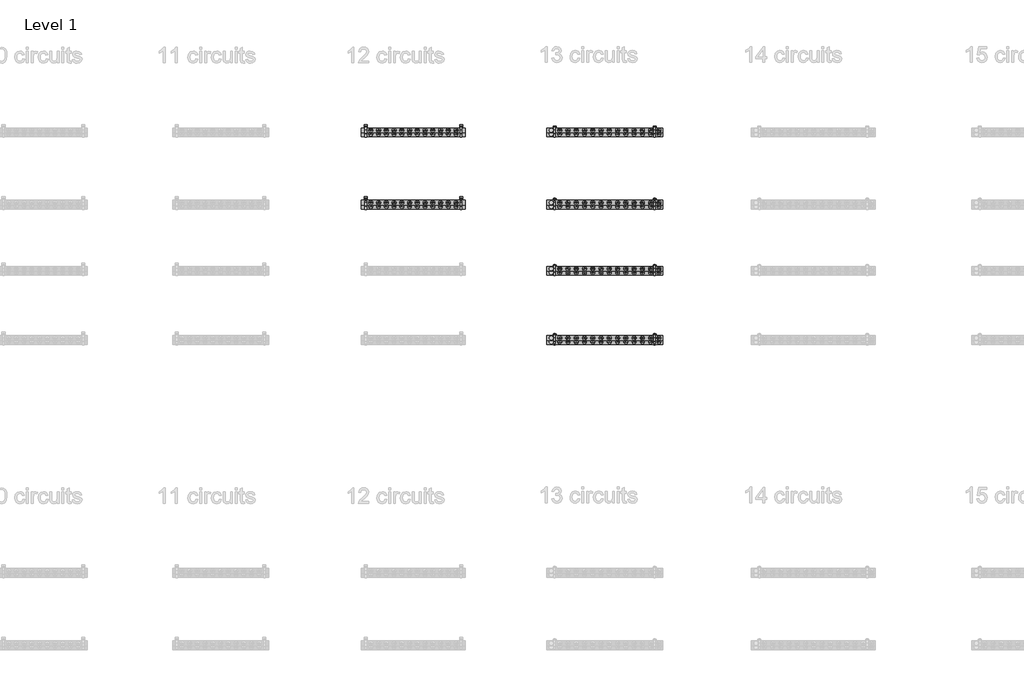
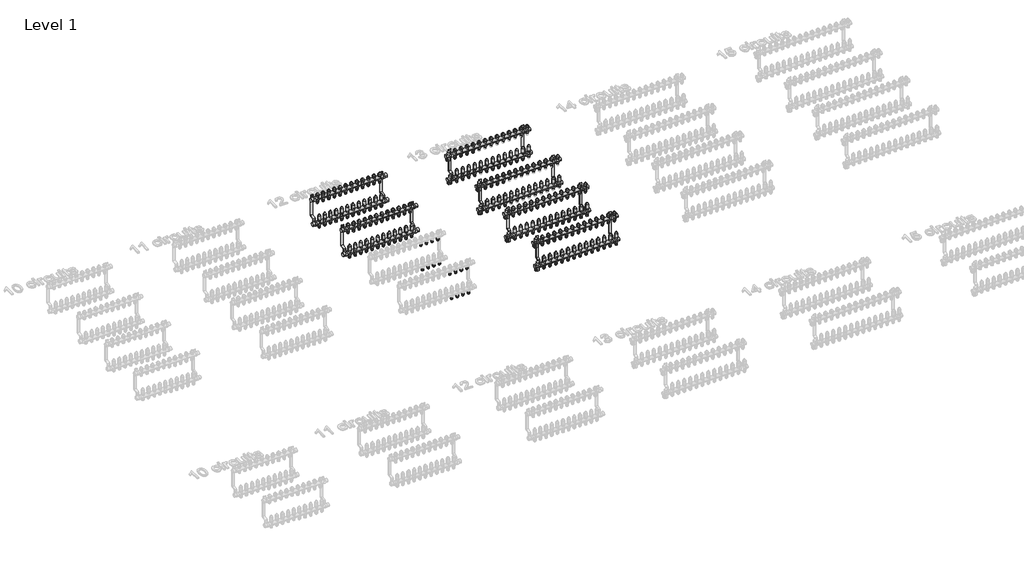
# One storey, part 12 of 23: 139 pipe fittings, 6 valves.
"""IFC4 building model written with IfcOpenShell, lengths in millimetres."""

from ifc_helpers import new_model, si_unit, origin, place, context, project, spatial, transform, mapped, element, save
from components import pipe_fitting_03c6499f, valve_28fdf4a6, valve_a7423dcf, valve_d379a65c, valve_24eee51e, valve_cb73cf64, valve_9b29a5eb, valve_b9f81a7f, valve_96d576d6

model = new_model("IFC4")

# Units and contexts
model_context = context("Model", 3, world=origin())
ifc_project = project(units=[si_unit("LENGTHUNIT", "METRE", prefix="MILLI")], contexts=[model_context])

# Site, building, storey
site = spatial("IfcSite", under=ifc_project)
building = spatial("IfcBuilding", under=site)
storey = spatial("IfcBuildingStorey", under=building, Name="Level 1", Elevation=0.0)

# Pipe fittings
placement = place(None, origin())
pipe_fitting_shape = pipe_fitting_03c6499f(model_context)
element("IfcPipeFitting", 1, ObjectType="Euroconus screwing for multilayer pipes - Manifold FT : Euroconus screwing for multilayer pipes - Manifold FT", at=placement, inside=storey, context=model_context, shape_type="MappedRepresentation", body=[
    mapped(pipe_fitting_shape, transform((12125.7069589, 1635.3040686, 62.88733), x_axis=(0.0, 0.0, -1.0), y_axis=(0.0, 1.0000000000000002, 0.0), z_axis=(1.0000000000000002, 0.0, 0.0))),
])
element("IfcPipeFitting", 2, ObjectType="Euroconus screwing for multilayer pipes - Manifold FT : Euroconus screwing for multilayer pipes - Manifold FT", at=placement, inside=storey, context=model_context, shape_type="MappedRepresentation", body=[
    mapped(pipe_fitting_shape, transform((12076.4342316, 1635.3040686, 62.88733), x_axis=(0.0, 0.0, -1.0), y_axis=(0.0, 1.0000000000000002, 0.0), z_axis=(1.0000000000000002, 0.0, 0.0))),
])
element("IfcPipeFitting", 3, ObjectType="Euroconus screwing for multilayer pipes - Manifold FT : Euroconus screwing for multilayer pipes - Manifold FT", at=placement, inside=storey, context=model_context, shape_type="MappedRepresentation", body=[
    mapped(pipe_fitting_shape, transform((12027.1615043, 1635.3040686, 62.88733), x_axis=(0.0, 0.0, -1.0), y_axis=(0.0, 1.0000000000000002, 0.0), z_axis=(1.0000000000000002, 0.0, 0.0))),
])
element("IfcPipeFitting", 4, ObjectType="Euroconus screwing for multilayer pipes - Manifold FT : Euroconus screwing for multilayer pipes - Manifold FT", at=placement, inside=storey, context=model_context, shape_type="MappedRepresentation", body=[
    mapped(pipe_fitting_shape, transform((11977.8887771, 1635.3040686, 62.88733), x_axis=(0.0, 0.0, -1.0), y_axis=(0.0, 1.0000000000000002, 0.0), z_axis=(1.0000000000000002, 0.0, 0.0))),
])
element("IfcPipeFitting", 5, ObjectType="Euroconus screwing for multilayer pipes - Manifold FT : Euroconus screwing for multilayer pipes - Manifold FT", at=placement, inside=storey, context=model_context, shape_type="MappedRepresentation", body=[
    mapped(pipe_fitting_shape, transform((11928.6160498, 1635.3040686, 62.88733), x_axis=(0.0, 0.0, -1.0), y_axis=(0.0, 1.0000000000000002, 0.0), z_axis=(1.0000000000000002, 0.0, 0.0))),
])
element("IfcPipeFitting", 6, ObjectType="Euroconus screwing for multilayer pipes - Manifold FT : Euroconus screwing for multilayer pipes - Manifold FT", at=placement, inside=storey, context=model_context, shape_type="MappedRepresentation", body=[
    mapped(pipe_fitting_shape, transform((11879.3433225, 1635.3040686, 62.88733), x_axis=(0.0, 0.0, -1.0), y_axis=(0.0, 1.0000000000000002, 0.0), z_axis=(1.0000000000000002, 0.0, 0.0))),
])
element("IfcPipeFitting", 7, ObjectType="Euroconus screwing for multilayer pipes - Manifold FT : Euroconus screwing for multilayer pipes - Manifold FT", at=placement, inside=storey, context=model_context, shape_type="MappedRepresentation", body=[
    mapped(pipe_fitting_shape, transform((11830.0705953, 1635.3040686, 62.88733), x_axis=(0.0, 0.0, -1.0), y_axis=(0.0, 1.0000000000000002, 0.0), z_axis=(1.0000000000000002, 0.0, 0.0))),
])
element("IfcPipeFitting", 8, ObjectType="Euroconus screwing for multilayer pipes - Manifold FT : Euroconus screwing for multilayer pipes - Manifold FT", at=placement, inside=storey, context=model_context, shape_type="MappedRepresentation", body=[
    mapped(pipe_fitting_shape, transform((11780.797868, 1635.3040686, 62.88733), x_axis=(0.0, 0.0, -1.0), y_axis=(0.0, 1.0000000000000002, 0.0), z_axis=(1.0000000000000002, 0.0, 0.0))),
])
element("IfcPipeFitting", 9, ObjectType="Euroconus screwing for multilayer pipes - Manifold FT : Euroconus screwing for multilayer pipes - Manifold FT", at=placement, inside=storey, context=model_context, shape_type="MappedRepresentation", body=[
    mapped(pipe_fitting_shape, transform((11731.5251407, 1635.3040686, 62.88733), x_axis=(0.0, 0.0, -1.0), y_axis=(0.0, 1.0000000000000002, 0.0), z_axis=(1.0000000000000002, 0.0, 0.0))),
])
element("IfcPipeFitting", 10, ObjectType="Euroconus screwing for multilayer pipes - Manifold FT : Euroconus screwing for multilayer pipes - Manifold FT", at=placement, inside=storey, context=model_context, shape_type="MappedRepresentation", body=[
    mapped(pipe_fitting_shape, transform((11682.2524134, 1635.3040686, 62.88733), x_axis=(0.0, 0.0, -1.0), y_axis=(0.0, 1.0000000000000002, 0.0), z_axis=(1.0000000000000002, 0.0, 0.0))),
])
element("IfcPipeFitting", 11, ObjectType="Euroconus screwing for multilayer pipes - Manifold FT : Euroconus screwing for multilayer pipes - Manifold FT", at=placement, inside=storey, context=model_context, shape_type="MappedRepresentation", body=[
    mapped(pipe_fitting_shape, transform((12174.9796862, 1635.3040686, 62.88733), x_axis=(0.0, 0.0, -1.0), y_axis=(0.0, 1.0000000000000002, 0.0), z_axis=(1.0000000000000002, 0.0, 0.0))),
])
element("IfcPipeFitting", 12, ObjectType="Euroconus screwing for multilayer pipes - Manifold FT : Euroconus screwing for multilayer pipes - Manifold FT", at=placement, inside=storey, context=model_context, shape_type="MappedRepresentation", body=[
    mapped(pipe_fitting_shape, transform((12125.7069589, 1660.3040686, 272.88733), x_axis=(0.0, 0.0, -1.0), y_axis=(0.0, 1.0000000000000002, 0.0), z_axis=(1.0000000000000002, 0.0, 0.0))),
])
element("IfcPipeFitting", 13, ObjectType="Euroconus screwing for multilayer pipes - Manifold FT : Euroconus screwing for multilayer pipes - Manifold FT", at=placement, inside=storey, context=model_context, shape_type="MappedRepresentation", body=[
    mapped(pipe_fitting_shape, transform((12076.4342316, 1660.3040686, 272.88733), x_axis=(0.0, 0.0, -1.0), y_axis=(0.0, 1.0000000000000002, 0.0), z_axis=(1.0000000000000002, 0.0, 0.0))),
])
element("IfcPipeFitting", 14, ObjectType="Euroconus screwing for multilayer pipes - Manifold FT : Euroconus screwing for multilayer pipes - Manifold FT", at=placement, inside=storey, context=model_context, shape_type="MappedRepresentation", body=[
    mapped(pipe_fitting_shape, transform((12027.1615043, 1660.3040686, 272.88733), x_axis=(0.0, 0.0, -1.0), y_axis=(0.0, 1.0000000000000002, 0.0), z_axis=(1.0000000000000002, 0.0, 0.0))),
])
element("IfcPipeFitting", 15, ObjectType="Euroconus screwing for multilayer pipes - Manifold FT : Euroconus screwing for multilayer pipes - Manifold FT", at=placement, inside=storey, context=model_context, shape_type="MappedRepresentation", body=[
    mapped(pipe_fitting_shape, transform((11977.8887771, 1660.3040686, 272.88733), x_axis=(0.0, 0.0, -1.0), y_axis=(0.0, 1.0000000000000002, 0.0), z_axis=(1.0000000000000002, 0.0, 0.0))),
])
element("IfcPipeFitting", 16, ObjectType="Euroconus screwing for multilayer pipes - Manifold FT : Euroconus screwing for multilayer pipes - Manifold FT", at=placement, inside=storey, context=model_context, shape_type="MappedRepresentation", body=[
    mapped(pipe_fitting_shape, transform((11928.6160498, 1660.3040686, 272.88733), x_axis=(0.0, 0.0, -1.0), y_axis=(0.0, 1.0000000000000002, 0.0), z_axis=(1.0000000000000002, 0.0, 0.0))),
])
element("IfcPipeFitting", 17, ObjectType="Euroconus screwing for multilayer pipes - Manifold FT : Euroconus screwing for multilayer pipes - Manifold FT", at=placement, inside=storey, context=model_context, shape_type="MappedRepresentation", body=[
    mapped(pipe_fitting_shape, transform((11879.3433225, 1660.3040686, 272.88733), x_axis=(0.0, 0.0, -1.0), y_axis=(0.0, 1.0000000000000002, 0.0), z_axis=(1.0000000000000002, 0.0, 0.0))),
])
element("IfcPipeFitting", 18, ObjectType="Euroconus screwing for multilayer pipes - Manifold FT : Euroconus screwing for multilayer pipes - Manifold FT", at=placement, inside=storey, context=model_context, shape_type="MappedRepresentation", body=[
    mapped(pipe_fitting_shape, transform((11830.0705953, 1660.3040686, 272.88733), x_axis=(0.0, 0.0, -1.0), y_axis=(0.0, 1.0000000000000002, 0.0), z_axis=(1.0000000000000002, 0.0, 0.0))),
])
element("IfcPipeFitting", 19, ObjectType="Euroconus screwing for multilayer pipes - Manifold FT : Euroconus screwing for multilayer pipes - Manifold FT", at=placement, inside=storey, context=model_context, shape_type="MappedRepresentation", body=[
    mapped(pipe_fitting_shape, transform((11780.797868, 1660.3040686, 272.88733), x_axis=(0.0, 0.0, -1.0), y_axis=(0.0, 1.0000000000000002, 0.0), z_axis=(1.0000000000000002, 0.0, 0.0))),
])
element("IfcPipeFitting", 20, ObjectType="Euroconus screwing for multilayer pipes - Manifold FT : Euroconus screwing for multilayer pipes - Manifold FT", at=placement, inside=storey, context=model_context, shape_type="MappedRepresentation", body=[
    mapped(pipe_fitting_shape, transform((11731.5251407, 1660.3040686, 272.88733), x_axis=(0.0, 0.0, -1.0), y_axis=(0.0, 1.0000000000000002, 0.0), z_axis=(1.0000000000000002, 0.0, 0.0))),
])
element("IfcPipeFitting", 21, ObjectType="Euroconus screwing for multilayer pipes - Manifold FT : Euroconus screwing for multilayer pipes - Manifold FT", at=placement, inside=storey, context=model_context, shape_type="MappedRepresentation", body=[
    mapped(pipe_fitting_shape, transform((11682.2524134, 1660.3040686, 272.88733), x_axis=(0.0, 0.0, -1.0), y_axis=(0.0, 1.0000000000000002, 0.0), z_axis=(1.0000000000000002, 0.0, 0.0))),
])
element("IfcPipeFitting", 22, ObjectType="Euroconus screwing for multilayer pipes - Manifold FT : Euroconus screwing for multilayer pipes - Manifold FT", at=placement, inside=storey, context=model_context, shape_type="MappedRepresentation", body=[
    mapped(pipe_fitting_shape, transform((12174.9796862, 1660.3040686, 272.88733), x_axis=(0.0, 0.0, -1.0), y_axis=(0.0, 1.0000000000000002, 0.0), z_axis=(1.0000000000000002, 0.0, 0.0))),
])
element("IfcPipeFitting", 23, ObjectType="Euroconus screwing for multilayer pipes - Manifold FT : Euroconus screwing for multilayer pipes - Manifold FT", at=placement, inside=storey, context=model_context, shape_type="MappedRepresentation", body=[
    mapped(pipe_fitting_shape, transform((11632.9796862, 1635.3040686, 62.88733), x_axis=(0.0, 0.0, -1.0), y_axis=(0.0, 1.0000000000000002, 0.0), z_axis=(1.0000000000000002, 0.0, 0.0))),
])
element("IfcPipeFitting", 24, ObjectType="Euroconus screwing for multilayer pipes - Manifold FT : Euroconus screwing for multilayer pipes - Manifold FT", at=placement, inside=storey, context=model_context, shape_type="MappedRepresentation", body=[
    mapped(pipe_fitting_shape, transform((11632.9796862, 1660.3040686, 272.88733), x_axis=(0.0, 0.0, -1.0), y_axis=(0.0, 1.0000000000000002, 0.0), z_axis=(1.0000000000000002, 0.0, 0.0))),
])
element("IfcPipeFitting", 25, ObjectType="Euroconus screwing for multilayer pipes - Manifold FT : Euroconus screwing for multilayer pipes - Manifold FT", at=placement, inside=storey, context=model_context, shape_type="MappedRepresentation", body=[
    mapped(pipe_fitting_shape, transform((12125.7069589, 1175.3040686, 62.88733), x_axis=(0.0, 0.0, -1.0), y_axis=(0.0, 1.0000000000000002, 0.0), z_axis=(1.0000000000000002, 0.0, 0.0))),
])
element("IfcPipeFitting", 26, ObjectType="Euroconus screwing for multilayer pipes - Manifold FT : Euroconus screwing for multilayer pipes - Manifold FT", at=placement, inside=storey, context=model_context, shape_type="MappedRepresentation", body=[
    mapped(pipe_fitting_shape, transform((12076.4342316, 1175.3040686, 62.88733), x_axis=(0.0, 0.0, -1.0), y_axis=(0.0, 1.0000000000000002, 0.0), z_axis=(1.0000000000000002, 0.0, 0.0))),
])
element("IfcPipeFitting", 27, ObjectType="Euroconus screwing for multilayer pipes - Manifold FT : Euroconus screwing for multilayer pipes - Manifold FT", at=placement, inside=storey, context=model_context, shape_type="MappedRepresentation", body=[
    mapped(pipe_fitting_shape, transform((12027.1615043, 1175.3040686, 62.88733), x_axis=(0.0, 0.0, -1.0), y_axis=(0.0, 1.0000000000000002, 0.0), z_axis=(1.0000000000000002, 0.0, 0.0))),
])
element("IfcPipeFitting", 28, ObjectType="Euroconus screwing for multilayer pipes - Manifold FT : Euroconus screwing for multilayer pipes - Manifold FT", at=placement, inside=storey, context=model_context, shape_type="MappedRepresentation", body=[
    mapped(pipe_fitting_shape, transform((11977.8887771, 1175.3040686, 62.88733), x_axis=(0.0, 0.0, -1.0), y_axis=(0.0, 1.0000000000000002, 0.0), z_axis=(1.0000000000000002, 0.0, 0.0))),
])
element("IfcPipeFitting", 29, ObjectType="Euroconus screwing for multilayer pipes - Manifold FT : Euroconus screwing for multilayer pipes - Manifold FT", at=placement, inside=storey, context=model_context, shape_type="MappedRepresentation", body=[
    mapped(pipe_fitting_shape, transform((11928.6160498, 1175.3040686, 62.88733), x_axis=(0.0, 0.0, -1.0), y_axis=(0.0, 1.0000000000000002, 0.0), z_axis=(1.0000000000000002, 0.0, 0.0))),
])
element("IfcPipeFitting", 30, ObjectType="Euroconus screwing for multilayer pipes - Manifold FT : Euroconus screwing for multilayer pipes - Manifold FT", at=placement, inside=storey, context=model_context, shape_type="MappedRepresentation", body=[
    mapped(pipe_fitting_shape, transform((11879.3433225, 1175.3040686, 62.88733), x_axis=(0.0, 0.0, -1.0), y_axis=(0.0, 1.0000000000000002, 0.0), z_axis=(1.0000000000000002, 0.0, 0.0))),
])
element("IfcPipeFitting", 31, ObjectType="Euroconus screwing for multilayer pipes - Manifold FT : Euroconus screwing for multilayer pipes - Manifold FT", at=placement, inside=storey, context=model_context, shape_type="MappedRepresentation", body=[
    mapped(pipe_fitting_shape, transform((11830.0705953, 1175.3040686, 62.88733), x_axis=(0.0, 0.0, -1.0), y_axis=(0.0, 1.0000000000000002, 0.0), z_axis=(1.0000000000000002, 0.0, 0.0))),
])
element("IfcPipeFitting", 32, ObjectType="Euroconus screwing for multilayer pipes - Manifold FT : Euroconus screwing for multilayer pipes - Manifold FT", at=placement, inside=storey, context=model_context, shape_type="MappedRepresentation", body=[
    mapped(pipe_fitting_shape, transform((11780.797868, 1175.3040686, 62.88733), x_axis=(0.0, 0.0, -1.0), y_axis=(0.0, 1.0000000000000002, 0.0), z_axis=(1.0000000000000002, 0.0, 0.0))),
])
element("IfcPipeFitting", 33, ObjectType="Euroconus screwing for multilayer pipes - Manifold FT : Euroconus screwing for multilayer pipes - Manifold FT", at=placement, inside=storey, context=model_context, shape_type="MappedRepresentation", body=[
    mapped(pipe_fitting_shape, transform((11731.5251407, 1175.3040686, 62.88733), x_axis=(0.0, 0.0, -1.0), y_axis=(0.0, 1.0000000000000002, 0.0), z_axis=(1.0000000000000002, 0.0, 0.0))),
])
element("IfcPipeFitting", 34, ObjectType="Euroconus screwing for multilayer pipes - Manifold FT : Euroconus screwing for multilayer pipes - Manifold FT", at=placement, inside=storey, context=model_context, shape_type="MappedRepresentation", body=[
    mapped(pipe_fitting_shape, transform((11682.2524134, 1175.3040686, 62.88733), x_axis=(0.0, 0.0, -1.0), y_axis=(0.0, 1.0000000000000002, 0.0), z_axis=(1.0000000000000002, 0.0, 0.0))),
])
element("IfcPipeFitting", 35, ObjectType="Euroconus screwing for multilayer pipes - Manifold FT : Euroconus screwing for multilayer pipes - Manifold FT", at=placement, inside=storey, context=model_context, shape_type="MappedRepresentation", body=[
    mapped(pipe_fitting_shape, transform((12174.9796862, 1175.3040686, 62.88733), x_axis=(0.0, 0.0, -1.0), y_axis=(0.0, 1.0000000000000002, 0.0), z_axis=(1.0000000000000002, 0.0, 0.0))),
])
element("IfcPipeFitting", 36, ObjectType="Euroconus screwing for multilayer pipes - Manifold FT : Euroconus screwing for multilayer pipes - Manifold FT", at=placement, inside=storey, context=model_context, shape_type="MappedRepresentation", body=[
    mapped(pipe_fitting_shape, transform((12125.7069589, 1200.3040686, 272.88733), x_axis=(0.0, 0.0, -1.0), y_axis=(0.0, 1.0000000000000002, 0.0), z_axis=(1.0000000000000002, 0.0, 0.0))),
])
element("IfcPipeFitting", 37, ObjectType="Euroconus screwing for multilayer pipes - Manifold FT : Euroconus screwing for multilayer pipes - Manifold FT", at=placement, inside=storey, context=model_context, shape_type="MappedRepresentation", body=[
    mapped(pipe_fitting_shape, transform((12076.4342316, 1200.3040686, 272.88733), x_axis=(0.0, 0.0, -1.0), y_axis=(0.0, 1.0000000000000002, 0.0), z_axis=(1.0000000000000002, 0.0, 0.0))),
])
element("IfcPipeFitting", 38, ObjectType="Euroconus screwing for multilayer pipes - Manifold FT : Euroconus screwing for multilayer pipes - Manifold FT", at=placement, inside=storey, context=model_context, shape_type="MappedRepresentation", body=[
    mapped(pipe_fitting_shape, transform((12027.1615043, 1200.3040686, 272.88733), x_axis=(0.0, 0.0, -1.0), y_axis=(0.0, 1.0000000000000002, 0.0), z_axis=(1.0000000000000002, 0.0, 0.0))),
])
element("IfcPipeFitting", 39, ObjectType="Euroconus screwing for multilayer pipes - Manifold FT : Euroconus screwing for multilayer pipes - Manifold FT", at=placement, inside=storey, context=model_context, shape_type="MappedRepresentation", body=[
    mapped(pipe_fitting_shape, transform((11977.8887771, 1200.3040686, 272.88733), x_axis=(0.0, 0.0, -1.0), y_axis=(0.0, 1.0000000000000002, 0.0), z_axis=(1.0000000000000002, 0.0, 0.0))),
])
element("IfcPipeFitting", 40, ObjectType="Euroconus screwing for multilayer pipes - Manifold FT : Euroconus screwing for multilayer pipes - Manifold FT", at=placement, inside=storey, context=model_context, shape_type="MappedRepresentation", body=[
    mapped(pipe_fitting_shape, transform((11928.6160498, 1200.3040686, 272.88733), x_axis=(0.0, 0.0, -1.0), y_axis=(0.0, 1.0000000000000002, 0.0), z_axis=(1.0000000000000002, 0.0, 0.0))),
])
element("IfcPipeFitting", 41, ObjectType="Euroconus screwing for multilayer pipes - Manifold FT : Euroconus screwing for multilayer pipes - Manifold FT", at=placement, inside=storey, context=model_context, shape_type="MappedRepresentation", body=[
    mapped(pipe_fitting_shape, transform((11879.3433225, 1200.3040686, 272.88733), x_axis=(0.0, 0.0, -1.0), y_axis=(0.0, 1.0000000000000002, 0.0), z_axis=(1.0000000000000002, 0.0, 0.0))),
])
element("IfcPipeFitting", 42, ObjectType="Euroconus screwing for multilayer pipes - Manifold FT : Euroconus screwing for multilayer pipes - Manifold FT", at=placement, inside=storey, context=model_context, shape_type="MappedRepresentation", body=[
    mapped(pipe_fitting_shape, transform((11830.0705953, 1200.3040686, 272.88733), x_axis=(0.0, 0.0, -1.0), y_axis=(0.0, 1.0000000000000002, 0.0), z_axis=(1.0000000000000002, 0.0, 0.0))),
])
element("IfcPipeFitting", 43, ObjectType="Euroconus screwing for multilayer pipes - Manifold FT : Euroconus screwing for multilayer pipes - Manifold FT", at=placement, inside=storey, context=model_context, shape_type="MappedRepresentation", body=[
    mapped(pipe_fitting_shape, transform((11780.797868, 1200.3040686, 272.88733), x_axis=(0.0, 0.0, -1.0), y_axis=(0.0, 1.0000000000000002, 0.0), z_axis=(1.0000000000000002, 0.0, 0.0))),
])
element("IfcPipeFitting", 44, ObjectType="Euroconus screwing for multilayer pipes - Manifold FT : Euroconus screwing for multilayer pipes - Manifold FT", at=placement, inside=storey, context=model_context, shape_type="MappedRepresentation", body=[
    mapped(pipe_fitting_shape, transform((11731.5251407, 1200.3040686, 272.88733), x_axis=(0.0, 0.0, -1.0), y_axis=(0.0, 1.0000000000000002, 0.0), z_axis=(1.0000000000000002, 0.0, 0.0))),
])
element("IfcPipeFitting", 45, ObjectType="Euroconus screwing for multilayer pipes - Manifold FT : Euroconus screwing for multilayer pipes - Manifold FT", at=placement, inside=storey, context=model_context, shape_type="MappedRepresentation", body=[
    mapped(pipe_fitting_shape, transform((11682.2524134, 1200.3040686, 272.88733), x_axis=(0.0, 0.0, -1.0), y_axis=(0.0, 1.0000000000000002, 0.0), z_axis=(1.0000000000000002, 0.0, 0.0))),
])
element("IfcPipeFitting", 46, ObjectType="Euroconus screwing for multilayer pipes - Manifold FT : Euroconus screwing for multilayer pipes - Manifold FT", at=placement, inside=storey, context=model_context, shape_type="MappedRepresentation", body=[
    mapped(pipe_fitting_shape, transform((12174.9796862, 1200.3040686, 272.88733), x_axis=(0.0, 0.0, -1.0), y_axis=(0.0, 1.0000000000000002, 0.0), z_axis=(1.0000000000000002, 0.0, 0.0))),
])
element("IfcPipeFitting", 47, ObjectType="Euroconus screwing for multilayer pipes - Manifold FT : Euroconus screwing for multilayer pipes - Manifold FT", at=placement, inside=storey, context=model_context, shape_type="MappedRepresentation", body=[
    mapped(pipe_fitting_shape, transform((11632.9796862, 1175.3040686, 62.88733), x_axis=(0.0, 0.0, -1.0), y_axis=(0.0, 1.0000000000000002, 0.0), z_axis=(1.0000000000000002, 0.0, 0.0))),
])
element("IfcPipeFitting", 48, ObjectType="Euroconus screwing for multilayer pipes - Manifold FT : Euroconus screwing for multilayer pipes - Manifold FT", at=placement, inside=storey, context=model_context, shape_type="MappedRepresentation", body=[
    mapped(pipe_fitting_shape, transform((11632.9796862, 1200.3040686, 272.88733), x_axis=(0.0, 0.0, -1.0), y_axis=(0.0, 1.0000000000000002, 0.0), z_axis=(1.0000000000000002, 0.0, 0.0))),
])
element("IfcPipeFitting", 49, ObjectType="Euroconus screwing for multilayer pipes - Manifold FT : Euroconus screwing for multilayer pipes - Manifold FT", at=placement, inside=storey, context=model_context, shape_type="MappedRepresentation", body=[
    mapped(pipe_fitting_shape, transform((12125.7069589, 755.3040686, 62.88733), x_axis=(0.0, 0.0, -1.0), y_axis=(0.0, 1.0000000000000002, 0.0), z_axis=(1.0000000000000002, 0.0, 0.0))),
])
element("IfcPipeFitting", 50, ObjectType="Euroconus screwing for multilayer pipes - Manifold FT : Euroconus screwing for multilayer pipes - Manifold FT", at=placement, inside=storey, context=model_context, shape_type="MappedRepresentation", body=[
    mapped(pipe_fitting_shape, transform((12076.4342316, 755.3040686, 62.88733), x_axis=(0.0, 0.0, -1.0), y_axis=(0.0, 1.0000000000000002, 0.0), z_axis=(1.0000000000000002, 0.0, 0.0))),
])
element("IfcPipeFitting", 51, ObjectType="Euroconus screwing for multilayer pipes - Manifold FT : Euroconus screwing for multilayer pipes - Manifold FT", at=placement, inside=storey, context=model_context, shape_type="MappedRepresentation", body=[
    mapped(pipe_fitting_shape, transform((12027.1615043, 755.3040686, 62.88733), x_axis=(0.0, 0.0, -1.0), y_axis=(0.0, 1.0000000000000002, 0.0), z_axis=(1.0000000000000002, 0.0, 0.0))),
])
element("IfcPipeFitting", 52, ObjectType="Euroconus screwing for multilayer pipes - Manifold FT : Euroconus screwing for multilayer pipes - Manifold FT", at=placement, inside=storey, context=model_context, shape_type="MappedRepresentation", body=[
    mapped(pipe_fitting_shape, transform((12174.9796862, 755.3040686, 62.88733), x_axis=(0.0, 0.0, -1.0), y_axis=(0.0, 1.0000000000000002, 0.0), z_axis=(1.0000000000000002, 0.0, 0.0))),
])
element("IfcPipeFitting", 53, ObjectType="Euroconus screwing for multilayer pipes - Manifold FT : Euroconus screwing for multilayer pipes - Manifold FT", at=placement, inside=storey, context=model_context, shape_type="MappedRepresentation", body=[
    mapped(pipe_fitting_shape, transform((12125.7069589, 780.3040686, 272.88733), x_axis=(0.0, 0.0, -1.0), y_axis=(0.0, 1.0000000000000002, 0.0), z_axis=(1.0000000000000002, 0.0, 0.0))),
])
element("IfcPipeFitting", 54, ObjectType="Euroconus screwing for multilayer pipes - Manifold FT : Euroconus screwing for multilayer pipes - Manifold FT", at=placement, inside=storey, context=model_context, shape_type="MappedRepresentation", body=[
    mapped(pipe_fitting_shape, transform((12076.4342316, 780.3040686, 272.88733), x_axis=(0.0, 0.0, -1.0), y_axis=(0.0, 1.0000000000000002, 0.0), z_axis=(1.0000000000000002, 0.0, 0.0))),
])
element("IfcPipeFitting", 55, ObjectType="Euroconus screwing for multilayer pipes - Manifold FT : Euroconus screwing for multilayer pipes - Manifold FT", at=placement, inside=storey, context=model_context, shape_type="MappedRepresentation", body=[
    mapped(pipe_fitting_shape, transform((12027.1615043, 780.3040686, 272.88733), x_axis=(0.0, 0.0, -1.0), y_axis=(0.0, 1.0000000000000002, 0.0), z_axis=(1.0000000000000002, 0.0, 0.0))),
])
element("IfcPipeFitting", 56, ObjectType="Euroconus screwing for multilayer pipes - Manifold FT : Euroconus screwing for multilayer pipes - Manifold FT", at=placement, inside=storey, context=model_context, shape_type="MappedRepresentation", body=[
    mapped(pipe_fitting_shape, transform((12174.9796862, 780.3040686, 272.88733), x_axis=(0.0, 0.0, -1.0), y_axis=(0.0, 1.0000000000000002, 0.0), z_axis=(1.0000000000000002, 0.0, 0.0))),
])
element("IfcPipeFitting", 57, ObjectType="Euroconus screwing for multilayer pipes - Manifold FT : Euroconus screwing for multilayer pipes - Manifold FT", at=placement, inside=storey, context=model_context, shape_type="MappedRepresentation", body=[
    mapped(pipe_fitting_shape, transform((12125.7069589, 315.3040686, 62.88733), x_axis=(0.0, 0.0, -1.0), y_axis=(0.0, 1.0000000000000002, 0.0), z_axis=(1.0000000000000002, 0.0, 0.0))),
])
element("IfcPipeFitting", 58, ObjectType="Euroconus screwing for multilayer pipes - Manifold FT : Euroconus screwing for multilayer pipes - Manifold FT", at=placement, inside=storey, context=model_context, shape_type="MappedRepresentation", body=[
    mapped(pipe_fitting_shape, transform((12076.4342316, 315.3040686, 62.88733), x_axis=(0.0, 0.0, -1.0), y_axis=(0.0, 1.0000000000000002, 0.0), z_axis=(1.0000000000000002, 0.0, 0.0))),
])
element("IfcPipeFitting", 59, ObjectType="Euroconus screwing for multilayer pipes - Manifold FT : Euroconus screwing for multilayer pipes - Manifold FT", at=placement, inside=storey, context=model_context, shape_type="MappedRepresentation", body=[
    mapped(pipe_fitting_shape, transform((12027.1615043, 315.3040686, 62.88733), x_axis=(0.0, 0.0, -1.0), y_axis=(0.0, 1.0000000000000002, 0.0), z_axis=(1.0000000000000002, 0.0, 0.0))),
])
element("IfcPipeFitting", 60, ObjectType="Euroconus screwing for multilayer pipes - Manifold FT : Euroconus screwing for multilayer pipes - Manifold FT", at=placement, inside=storey, context=model_context, shape_type="MappedRepresentation", body=[
    mapped(pipe_fitting_shape, transform((12174.9796862, 315.3040686, 62.88733), x_axis=(0.0, 0.0, -1.0), y_axis=(0.0, 1.0000000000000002, 0.0), z_axis=(1.0000000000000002, 0.0, 0.0))),
])
element("IfcPipeFitting", 61, ObjectType="Euroconus screwing for multilayer pipes - Manifold FT : Euroconus screwing for multilayer pipes - Manifold FT", at=placement, inside=storey, context=model_context, shape_type="MappedRepresentation", body=[
    mapped(pipe_fitting_shape, transform((12125.7069589, 340.3040686, 272.88733), x_axis=(0.0, 0.0, -1.0), y_axis=(0.0, 1.0000000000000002, 0.0), z_axis=(1.0000000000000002, 0.0, 0.0))),
])
element("IfcPipeFitting", 62, ObjectType="Euroconus screwing for multilayer pipes - Manifold FT : Euroconus screwing for multilayer pipes - Manifold FT", at=placement, inside=storey, context=model_context, shape_type="MappedRepresentation", body=[
    mapped(pipe_fitting_shape, transform((12076.4342316, 340.3040686, 272.88733), x_axis=(0.0, 0.0, -1.0), y_axis=(0.0, 1.0000000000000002, 0.0), z_axis=(1.0000000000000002, 0.0, 0.0))),
])
element("IfcPipeFitting", 63, ObjectType="Euroconus screwing for multilayer pipes - Manifold FT : Euroconus screwing for multilayer pipes - Manifold FT", at=placement, inside=storey, context=model_context, shape_type="MappedRepresentation", body=[
    mapped(pipe_fitting_shape, transform((12027.1615043, 340.3040686, 272.88733), x_axis=(0.0, 0.0, -1.0), y_axis=(0.0, 1.0000000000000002, 0.0), z_axis=(1.0000000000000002, 0.0, 0.0))),
])
element("IfcPipeFitting", 64, ObjectType="Euroconus screwing for multilayer pipes - Manifold FT : Euroconus screwing for multilayer pipes - Manifold FT", at=placement, inside=storey, context=model_context, shape_type="MappedRepresentation", body=[
    mapped(pipe_fitting_shape, transform((12174.9796862, 340.3040686, 272.88733), x_axis=(0.0, 0.0, -1.0), y_axis=(0.0, 1.0000000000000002, 0.0), z_axis=(1.0000000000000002, 0.0, 0.0))),
])
element("IfcPipeFitting", 65, ObjectType="Euroconus screwing for multilayer pipes - Manifold FT : Euroconus screwing for multilayer pipes - Manifold FT", at=placement, inside=storey, context=model_context, shape_type="MappedRepresentation", body=[
    mapped(pipe_fitting_shape, transform((13410.4796862, 1635.3040686, 62.88733), x_axis=(0.0, 0.0, -1.0), y_axis=(0.0, 1.0000000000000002, 0.0), z_axis=(1.0000000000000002, 0.0, 0.0))),
])
element("IfcPipeFitting", 66, ObjectType="Euroconus screwing for multilayer pipes - Manifold FT : Euroconus screwing for multilayer pipes - Manifold FT", at=placement, inside=storey, context=model_context, shape_type="MappedRepresentation", body=[
    mapped(pipe_fitting_shape, transform((13357.9796862, 1635.3040686, 62.88733), x_axis=(0.0, 0.0, -1.0), y_axis=(0.0, 1.0000000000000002, 0.0), z_axis=(1.0000000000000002, 0.0, 0.0))),
])
element("IfcPipeFitting", 67, ObjectType="Euroconus screwing for multilayer pipes - Manifold FT : Euroconus screwing for multilayer pipes - Manifold FT", at=placement, inside=storey, context=model_context, shape_type="MappedRepresentation", body=[
    mapped(pipe_fitting_shape, transform((13305.4796862, 1635.3040686, 62.88733), x_axis=(0.0, 0.0, -1.0), y_axis=(0.0, 1.0000000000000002, 0.0), z_axis=(1.0000000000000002, 0.0, 0.0))),
])
element("IfcPipeFitting", 68, ObjectType="Euroconus screwing for multilayer pipes - Manifold FT : Euroconus screwing for multilayer pipes - Manifold FT", at=placement, inside=storey, context=model_context, shape_type="MappedRepresentation", body=[
    mapped(pipe_fitting_shape, transform((13252.9796862, 1635.3040686, 62.88733), x_axis=(0.0, 0.0, -1.0), y_axis=(0.0, 1.0000000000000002, 0.0), z_axis=(1.0000000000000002, 0.0, 0.0))),
])
element("IfcPipeFitting", 69, ObjectType="Euroconus screwing for multilayer pipes - Manifold FT : Euroconus screwing for multilayer pipes - Manifold FT", at=placement, inside=storey, context=model_context, shape_type="MappedRepresentation", body=[
    mapped(pipe_fitting_shape, transform((13200.4796862, 1635.3040686, 62.88733), x_axis=(0.0, 0.0, -1.0), y_axis=(0.0, 1.0000000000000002, 0.0), z_axis=(1.0000000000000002, 0.0, 0.0))),
])
element("IfcPipeFitting", 70, ObjectType="Euroconus screwing for multilayer pipes - Manifold FT : Euroconus screwing for multilayer pipes - Manifold FT", at=placement, inside=storey, context=model_context, shape_type="MappedRepresentation", body=[
    mapped(pipe_fitting_shape, transform((13147.9796862, 1635.3040686, 62.88733), x_axis=(0.0, 0.0, -1.0), y_axis=(0.0, 1.0000000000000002, 0.0), z_axis=(1.0000000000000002, 0.0, 0.0))),
])
element("IfcPipeFitting", 71, ObjectType="Euroconus screwing for multilayer pipes - Manifold FT : Euroconus screwing for multilayer pipes - Manifold FT", at=placement, inside=storey, context=model_context, shape_type="MappedRepresentation", body=[
    mapped(pipe_fitting_shape, transform((13095.4796862, 1635.3040686, 62.88733), x_axis=(0.0, 0.0, -1.0), y_axis=(0.0, 1.0000000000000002, 0.0), z_axis=(1.0000000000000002, 0.0, 0.0))),
])
element("IfcPipeFitting", 72, ObjectType="Euroconus screwing for multilayer pipes - Manifold FT : Euroconus screwing for multilayer pipes - Manifold FT", at=placement, inside=storey, context=model_context, shape_type="MappedRepresentation", body=[
    mapped(pipe_fitting_shape, transform((12990.4796862, 1635.3040686, 62.88733), x_axis=(0.0, 0.0, -1.0), y_axis=(0.0, 1.0000000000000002, 0.0), z_axis=(1.0000000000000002, 0.0, 0.0))),
])
element("IfcPipeFitting", 73, ObjectType="Euroconus screwing for multilayer pipes - Manifold FT : Euroconus screwing for multilayer pipes - Manifold FT", at=placement, inside=storey, context=model_context, shape_type="MappedRepresentation", body=[
    mapped(pipe_fitting_shape, transform((12937.9796862, 1635.3040686, 62.88733), x_axis=(0.0, 0.0, -1.0), y_axis=(0.0, 1.0000000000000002, 0.0), z_axis=(1.0000000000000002, 0.0, 0.0))),
])
element("IfcPipeFitting", 74, ObjectType="Euroconus screwing for multilayer pipes - Manifold FT : Euroconus screwing for multilayer pipes - Manifold FT", at=placement, inside=storey, context=model_context, shape_type="MappedRepresentation", body=[
    mapped(pipe_fitting_shape, transform((12885.4796862, 1635.3040686, 62.88733), x_axis=(0.0, 0.0, -1.0), y_axis=(0.0, 1.0000000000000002, 0.0), z_axis=(1.0000000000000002, 0.0, 0.0))),
])
element("IfcPipeFitting", 75, ObjectType="Euroconus screwing for multilayer pipes - Manifold FT : Euroconus screwing for multilayer pipes - Manifold FT", at=placement, inside=storey, context=model_context, shape_type="MappedRepresentation", body=[
    mapped(pipe_fitting_shape, transform((12990.4796862, 1660.3040686, 262.88733), x_axis=(0.0, 0.0, -1.0), y_axis=(0.0, 1.0000000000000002, 0.0), z_axis=(1.0000000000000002, 0.0, 0.0))),
])
element("IfcPipeFitting", 76, ObjectType="Euroconus screwing for multilayer pipes - Manifold FT : Euroconus screwing for multilayer pipes - Manifold FT", at=placement, inside=storey, context=model_context, shape_type="MappedRepresentation", body=[
    mapped(pipe_fitting_shape, transform((12937.9796862, 1660.3040686, 262.88733), x_axis=(0.0, 0.0, -1.0), y_axis=(0.0, 1.0000000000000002, 0.0), z_axis=(1.0000000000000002, 0.0, 0.0))),
])
element("IfcPipeFitting", 77, ObjectType="Euroconus screwing for multilayer pipes - Manifold FT : Euroconus screwing for multilayer pipes - Manifold FT", at=placement, inside=storey, context=model_context, shape_type="MappedRepresentation", body=[
    mapped(pipe_fitting_shape, transform((12885.4796862, 1660.3040686, 262.88733), x_axis=(0.0, 0.0, -1.0), y_axis=(0.0, 1.0000000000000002, 0.0), z_axis=(1.0000000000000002, 0.0, 0.0))),
])
element("IfcPipeFitting", 78, ObjectType="Euroconus screwing for multilayer pipes - Manifold FT : Euroconus screwing for multilayer pipes - Manifold FT", at=placement, inside=storey, context=model_context, shape_type="MappedRepresentation", body=[
    mapped(pipe_fitting_shape, transform((12832.9796862, 1635.3040686, 62.88733), x_axis=(0.0, 0.0, -1.0), y_axis=(0.0, 1.0000000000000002, 0.0), z_axis=(1.0000000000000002, 0.0, 0.0))),
])
element("IfcPipeFitting", 79, ObjectType="Euroconus screwing for multilayer pipes - Manifold FT : Euroconus screwing for multilayer pipes - Manifold FT", at=placement, inside=storey, context=model_context, shape_type="MappedRepresentation", body=[
    mapped(pipe_fitting_shape, transform((12832.9796862, 1660.3040686, 262.88733), x_axis=(0.0, 0.0, -1.0), y_axis=(0.0, 1.0000000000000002, 0.0), z_axis=(1.0000000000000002, 0.0, 0.0))),
])
element("IfcPipeFitting", 80, ObjectType="Euroconus screwing for multilayer pipes - Manifold FT : Euroconus screwing for multilayer pipes - Manifold FT", at=placement, inside=storey, context=model_context, shape_type="MappedRepresentation", body=[
    mapped(pipe_fitting_shape, transform((12990.4796862, 1175.3040686, 62.88733), x_axis=(0.0, 0.0, -1.0), y_axis=(0.0, 1.0000000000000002, 0.0), z_axis=(1.0000000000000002, 0.0, 0.0))),
])
element("IfcPipeFitting", 81, ObjectType="Euroconus screwing for multilayer pipes - Manifold FT : Euroconus screwing for multilayer pipes - Manifold FT", at=placement, inside=storey, context=model_context, shape_type="MappedRepresentation", body=[
    mapped(pipe_fitting_shape, transform((12937.9796862, 1175.3040686, 62.88733), x_axis=(0.0, 0.0, -1.0), y_axis=(0.0, 1.0000000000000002, 0.0), z_axis=(1.0000000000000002, 0.0, 0.0))),
])
element("IfcPipeFitting", 82, ObjectType="Euroconus screwing for multilayer pipes - Manifold FT : Euroconus screwing for multilayer pipes - Manifold FT", at=placement, inside=storey, context=model_context, shape_type="MappedRepresentation", body=[
    mapped(pipe_fitting_shape, transform((12885.4796862, 1175.3040686, 62.88733), x_axis=(0.0, 0.0, -1.0), y_axis=(0.0, 1.0000000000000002, 0.0), z_axis=(1.0000000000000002, 0.0, 0.0))),
])
element("IfcPipeFitting", 83, ObjectType="Euroconus screwing for multilayer pipes - Manifold FT : Euroconus screwing for multilayer pipes - Manifold FT", at=placement, inside=storey, context=model_context, shape_type="MappedRepresentation", body=[
    mapped(pipe_fitting_shape, transform((12990.4796862, 1200.3040686, 262.88733), x_axis=(0.0, 0.0, -1.0), y_axis=(0.0, 1.0000000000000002, 0.0), z_axis=(1.0000000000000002, 0.0, 0.0))),
])
element("IfcPipeFitting", 84, ObjectType="Euroconus screwing for multilayer pipes - Manifold FT : Euroconus screwing for multilayer pipes - Manifold FT", at=placement, inside=storey, context=model_context, shape_type="MappedRepresentation", body=[
    mapped(pipe_fitting_shape, transform((12937.9796862, 1200.3040686, 262.88733), x_axis=(0.0, 0.0, -1.0), y_axis=(0.0, 1.0000000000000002, 0.0), z_axis=(1.0000000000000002, 0.0, 0.0))),
])
element("IfcPipeFitting", 85, ObjectType="Euroconus screwing for multilayer pipes - Manifold FT : Euroconus screwing for multilayer pipes - Manifold FT", at=placement, inside=storey, context=model_context, shape_type="MappedRepresentation", body=[
    mapped(pipe_fitting_shape, transform((12885.4796862, 1200.3040686, 262.88733), x_axis=(0.0, 0.0, -1.0), y_axis=(0.0, 1.0000000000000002, 0.0), z_axis=(1.0000000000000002, 0.0, 0.0))),
])
element("IfcPipeFitting", 86, ObjectType="Euroconus screwing for multilayer pipes - Manifold FT : Euroconus screwing for multilayer pipes - Manifold FT", at=placement, inside=storey, context=model_context, shape_type="MappedRepresentation", body=[
    mapped(pipe_fitting_shape, transform((12832.9796862, 1175.3040686, 62.88733), x_axis=(0.0, 0.0, -1.0), y_axis=(0.0, 1.0000000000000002, 0.0), z_axis=(1.0000000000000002, 0.0, 0.0))),
])
element("IfcPipeFitting", 87, ObjectType="Euroconus screwing for multilayer pipes - Manifold FT : Euroconus screwing for multilayer pipes - Manifold FT", at=placement, inside=storey, context=model_context, shape_type="MappedRepresentation", body=[
    mapped(pipe_fitting_shape, transform((12832.9796862, 1200.3040686, 262.88733), x_axis=(0.0, 0.0, -1.0), y_axis=(0.0, 1.0000000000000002, 0.0), z_axis=(1.0000000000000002, 0.0, 0.0))),
])
element("IfcPipeFitting", 88, ObjectType="Euroconus screwing for multilayer pipes - Manifold FT : Euroconus screwing for multilayer pipes - Manifold FT", at=placement, inside=storey, context=model_context, shape_type="MappedRepresentation", body=[
    mapped(pipe_fitting_shape, transform((13410.4796862, 755.3040686, 62.88733), x_axis=(0.0, 0.0, -1.0), y_axis=(0.0, 1.0000000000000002, 0.0), z_axis=(1.0000000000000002, 0.0, 0.0))),
])
element("IfcPipeFitting", 89, ObjectType="Euroconus screwing for multilayer pipes - Manifold FT : Euroconus screwing for multilayer pipes - Manifold FT", at=placement, inside=storey, context=model_context, shape_type="MappedRepresentation", body=[
    mapped(pipe_fitting_shape, transform((13357.9796862, 755.3040686, 62.88733), x_axis=(0.0, 0.0, -1.0), y_axis=(0.0, 1.0000000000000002, 0.0), z_axis=(1.0000000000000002, 0.0, 0.0))),
])
element("IfcPipeFitting", 90, ObjectType="Euroconus screwing for multilayer pipes - Manifold FT : Euroconus screwing for multilayer pipes - Manifold FT", at=placement, inside=storey, context=model_context, shape_type="MappedRepresentation", body=[
    mapped(pipe_fitting_shape, transform((13305.4796862, 755.3040686, 62.88733), x_axis=(0.0, 0.0, -1.0), y_axis=(0.0, 1.0000000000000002, 0.0), z_axis=(1.0000000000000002, 0.0, 0.0))),
])
element("IfcPipeFitting", 91, ObjectType="Euroconus screwing for multilayer pipes - Manifold FT : Euroconus screwing for multilayer pipes - Manifold FT", at=placement, inside=storey, context=model_context, shape_type="MappedRepresentation", body=[
    mapped(pipe_fitting_shape, transform((13252.9796862, 755.3040686, 62.88733), x_axis=(0.0, 0.0, -1.0), y_axis=(0.0, 1.0000000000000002, 0.0), z_axis=(1.0000000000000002, 0.0, 0.0))),
])
element("IfcPipeFitting", 92, ObjectType="Euroconus screwing for multilayer pipes - Manifold FT : Euroconus screwing for multilayer pipes - Manifold FT", at=placement, inside=storey, context=model_context, shape_type="MappedRepresentation", body=[
    mapped(pipe_fitting_shape, transform((13200.4796862, 755.3040686, 62.88733), x_axis=(0.0, 0.0, -1.0), y_axis=(0.0, 1.0000000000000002, 0.0), z_axis=(1.0000000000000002, 0.0, 0.0))),
])
element("IfcPipeFitting", 93, ObjectType="Euroconus screwing for multilayer pipes - Manifold FT : Euroconus screwing for multilayer pipes - Manifold FT", at=placement, inside=storey, context=model_context, shape_type="MappedRepresentation", body=[
    mapped(pipe_fitting_shape, transform((13147.9796862, 755.3040686, 62.88733), x_axis=(0.0, 0.0, -1.0), y_axis=(0.0, 1.0000000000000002, 0.0), z_axis=(1.0000000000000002, 0.0, 0.0))),
])
element("IfcPipeFitting", 94, ObjectType="Euroconus screwing for multilayer pipes - Manifold FT : Euroconus screwing for multilayer pipes - Manifold FT", at=placement, inside=storey, context=model_context, shape_type="MappedRepresentation", body=[
    mapped(pipe_fitting_shape, transform((13095.4796862, 755.3040686, 62.88733), x_axis=(0.0, 0.0, -1.0), y_axis=(0.0, 1.0000000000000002, 0.0), z_axis=(1.0000000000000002, 0.0, 0.0))),
])
element("IfcPipeFitting", 95, ObjectType="Euroconus screwing for multilayer pipes - Manifold FT : Euroconus screwing for multilayer pipes - Manifold FT", at=placement, inside=storey, context=model_context, shape_type="MappedRepresentation", body=[
    mapped(pipe_fitting_shape, transform((13042.9796862, 755.3040686, 62.88733), x_axis=(0.0, 0.0, -1.0), y_axis=(0.0, 1.0000000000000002, 0.0), z_axis=(1.0000000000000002, 0.0, 0.0))),
])
element("IfcPipeFitting", 96, ObjectType="Euroconus screwing for multilayer pipes - Manifold FT : Euroconus screwing for multilayer pipes - Manifold FT", at=placement, inside=storey, context=model_context, shape_type="MappedRepresentation", body=[
    mapped(pipe_fitting_shape, transform((12990.4796862, 755.3040686, 62.88733), x_axis=(0.0, 0.0, -1.0), y_axis=(0.0, 1.0000000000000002, 0.0), z_axis=(1.0000000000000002, 0.0, 0.0))),
])
element("IfcPipeFitting", 97, ObjectType="Euroconus screwing for multilayer pipes - Manifold FT : Euroconus screwing for multilayer pipes - Manifold FT", at=placement, inside=storey, context=model_context, shape_type="MappedRepresentation", body=[
    mapped(pipe_fitting_shape, transform((12937.9796862, 755.3040686, 62.88733), x_axis=(0.0, 0.0, -1.0), y_axis=(0.0, 1.0000000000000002, 0.0), z_axis=(1.0000000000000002, 0.0, 0.0))),
])
element("IfcPipeFitting", 98, ObjectType="Euroconus screwing for multilayer pipes - Manifold FT : Euroconus screwing for multilayer pipes - Manifold FT", at=placement, inside=storey, context=model_context, shape_type="MappedRepresentation", body=[
    mapped(pipe_fitting_shape, transform((12885.4796862, 755.3040686, 62.88733), x_axis=(0.0, 0.0, -1.0), y_axis=(0.0, 1.0000000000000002, 0.0), z_axis=(1.0000000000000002, 0.0, 0.0))),
])
element("IfcPipeFitting", 99, ObjectType="Euroconus screwing for multilayer pipes - Manifold FT : Euroconus screwing for multilayer pipes - Manifold FT", at=placement, inside=storey, context=model_context, shape_type="MappedRepresentation", body=[
    mapped(pipe_fitting_shape, transform((13462.9796862, 755.3040686, 62.88733), x_axis=(0.0, 0.0, -1.0), y_axis=(0.0, 1.0000000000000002, 0.0), z_axis=(1.0000000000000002, 0.0, 0.0))),
])
element("IfcPipeFitting", 100, ObjectType="Euroconus screwing for multilayer pipes - Manifold FT : Euroconus screwing for multilayer pipes - Manifold FT", at=placement, inside=storey, context=model_context, shape_type="MappedRepresentation", body=[
    mapped(pipe_fitting_shape, transform((13410.4796862, 780.3040686, 262.88733), x_axis=(0.0, 0.0, -1.0), y_axis=(0.0, 1.0000000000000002, 0.0), z_axis=(1.0000000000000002, 0.0, 0.0))),
])
element("IfcPipeFitting", 101, ObjectType="Euroconus screwing for multilayer pipes - Manifold FT : Euroconus screwing for multilayer pipes - Manifold FT", at=placement, inside=storey, context=model_context, shape_type="MappedRepresentation", body=[
    mapped(pipe_fitting_shape, transform((13357.9796862, 780.3040686, 262.88733), x_axis=(0.0, 0.0, -1.0), y_axis=(0.0, 1.0000000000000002, 0.0), z_axis=(1.0000000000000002, 0.0, 0.0))),
])
element("IfcPipeFitting", 102, ObjectType="Euroconus screwing for multilayer pipes - Manifold FT : Euroconus screwing for multilayer pipes - Manifold FT", at=placement, inside=storey, context=model_context, shape_type="MappedRepresentation", body=[
    mapped(pipe_fitting_shape, transform((13305.4796862, 780.3040686, 262.88733), x_axis=(0.0, 0.0, -1.0), y_axis=(0.0, 1.0000000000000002, 0.0), z_axis=(1.0000000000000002, 0.0, 0.0))),
])
element("IfcPipeFitting", 103, ObjectType="Euroconus screwing for multilayer pipes - Manifold FT : Euroconus screwing for multilayer pipes - Manifold FT", at=placement, inside=storey, context=model_context, shape_type="MappedRepresentation", body=[
    mapped(pipe_fitting_shape, transform((13252.9796862, 780.3040686, 262.88733), x_axis=(0.0, 0.0, -1.0), y_axis=(0.0, 1.0000000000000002, 0.0), z_axis=(1.0000000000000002, 0.0, 0.0))),
])
element("IfcPipeFitting", 104, ObjectType="Euroconus screwing for multilayer pipes - Manifold FT : Euroconus screwing for multilayer pipes - Manifold FT", at=placement, inside=storey, context=model_context, shape_type="MappedRepresentation", body=[
    mapped(pipe_fitting_shape, transform((13200.4796862, 780.3040686, 262.88733), x_axis=(0.0, 0.0, -1.0), y_axis=(0.0, 1.0000000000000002, 0.0), z_axis=(1.0000000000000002, 0.0, 0.0))),
])
element("IfcPipeFitting", 105, ObjectType="Euroconus screwing for multilayer pipes - Manifold FT : Euroconus screwing for multilayer pipes - Manifold FT", at=placement, inside=storey, context=model_context, shape_type="MappedRepresentation", body=[
    mapped(pipe_fitting_shape, transform((13147.9796862, 780.3040686, 262.88733), x_axis=(0.0, 0.0, -1.0), y_axis=(0.0, 1.0000000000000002, 0.0), z_axis=(1.0000000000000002, 0.0, 0.0))),
])
element("IfcPipeFitting", 106, ObjectType="Euroconus screwing for multilayer pipes - Manifold FT : Euroconus screwing for multilayer pipes - Manifold FT", at=placement, inside=storey, context=model_context, shape_type="MappedRepresentation", body=[
    mapped(pipe_fitting_shape, transform((13095.4796862, 780.3040686, 262.88733), x_axis=(0.0, 0.0, -1.0), y_axis=(0.0, 1.0000000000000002, 0.0), z_axis=(1.0000000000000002, 0.0, 0.0))),
])
element("IfcPipeFitting", 107, ObjectType="Euroconus screwing for multilayer pipes - Manifold FT : Euroconus screwing for multilayer pipes - Manifold FT", at=placement, inside=storey, context=model_context, shape_type="MappedRepresentation", body=[
    mapped(pipe_fitting_shape, transform((13042.9796862, 780.3040686, 262.88733), x_axis=(0.0, 0.0, -1.0), y_axis=(0.0, 1.0000000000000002, 0.0), z_axis=(1.0000000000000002, 0.0, 0.0))),
])
element("IfcPipeFitting", 108, ObjectType="Euroconus screwing for multilayer pipes - Manifold FT : Euroconus screwing for multilayer pipes - Manifold FT", at=placement, inside=storey, context=model_context, shape_type="MappedRepresentation", body=[
    mapped(pipe_fitting_shape, transform((12990.4796862, 780.3040686, 262.88733), x_axis=(0.0, 0.0, -1.0), y_axis=(0.0, 1.0000000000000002, 0.0), z_axis=(1.0000000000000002, 0.0, 0.0))),
])
element("IfcPipeFitting", 109, ObjectType="Euroconus screwing for multilayer pipes - Manifold FT : Euroconus screwing for multilayer pipes - Manifold FT", at=placement, inside=storey, context=model_context, shape_type="MappedRepresentation", body=[
    mapped(pipe_fitting_shape, transform((12937.9796862, 780.3040686, 262.88733), x_axis=(0.0, 0.0, -1.0), y_axis=(0.0, 1.0000000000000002, 0.0), z_axis=(1.0000000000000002, 0.0, 0.0))),
])
element("IfcPipeFitting", 110, ObjectType="Euroconus screwing for multilayer pipes - Manifold FT : Euroconus screwing for multilayer pipes - Manifold FT", at=placement, inside=storey, context=model_context, shape_type="MappedRepresentation", body=[
    mapped(pipe_fitting_shape, transform((12885.4796862, 780.3040686, 262.88733), x_axis=(0.0, 0.0, -1.0), y_axis=(0.0, 1.0000000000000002, 0.0), z_axis=(1.0000000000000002, 0.0, 0.0))),
])
element("IfcPipeFitting", 111, ObjectType="Euroconus screwing for multilayer pipes - Manifold FT : Euroconus screwing for multilayer pipes - Manifold FT", at=placement, inside=storey, context=model_context, shape_type="MappedRepresentation", body=[
    mapped(pipe_fitting_shape, transform((13462.9796862, 780.3040686, 262.88733), x_axis=(0.0, 0.0, -1.0), y_axis=(0.0, 1.0000000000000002, 0.0), z_axis=(1.0000000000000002, 0.0, 0.0))),
])
element("IfcPipeFitting", 112, ObjectType="Euroconus screwing for multilayer pipes - Manifold FT : Euroconus screwing for multilayer pipes - Manifold FT", at=placement, inside=storey, context=model_context, shape_type="MappedRepresentation", body=[
    mapped(pipe_fitting_shape, transform((12832.9796862, 755.3040686, 62.88733), x_axis=(0.0, 0.0, -1.0), y_axis=(0.0, 1.0000000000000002, 0.0), z_axis=(1.0000000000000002, 0.0, 0.0))),
])
element("IfcPipeFitting", 113, ObjectType="Euroconus screwing for multilayer pipes - Manifold FT : Euroconus screwing for multilayer pipes - Manifold FT", at=placement, inside=storey, context=model_context, shape_type="MappedRepresentation", body=[
    mapped(pipe_fitting_shape, transform((12832.9796862, 780.3040686, 262.88733), x_axis=(0.0, 0.0, -1.0), y_axis=(0.0, 1.0000000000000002, 0.0), z_axis=(1.0000000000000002, 0.0, 0.0))),
])
element("IfcPipeFitting", 114, ObjectType="Euroconus screwing for multilayer pipes - Manifold FT : Euroconus screwing for multilayer pipes - Manifold FT", at=placement, inside=storey, context=model_context, shape_type="MappedRepresentation", body=[
    mapped(pipe_fitting_shape, transform((13410.4796862, 315.3040686, 62.88733), x_axis=(0.0, 0.0, -1.0), y_axis=(0.0, 1.0000000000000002, 0.0), z_axis=(1.0000000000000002, 0.0, 0.0))),
])
element("IfcPipeFitting", 115, ObjectType="Euroconus screwing for multilayer pipes - Manifold FT : Euroconus screwing for multilayer pipes - Manifold FT", at=placement, inside=storey, context=model_context, shape_type="MappedRepresentation", body=[
    mapped(pipe_fitting_shape, transform((13357.9796862, 315.3040686, 62.88733), x_axis=(0.0, 0.0, -1.0), y_axis=(0.0, 1.0000000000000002, 0.0), z_axis=(1.0000000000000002, 0.0, 0.0))),
])
element("IfcPipeFitting", 116, ObjectType="Euroconus screwing for multilayer pipes - Manifold FT : Euroconus screwing for multilayer pipes - Manifold FT", at=placement, inside=storey, context=model_context, shape_type="MappedRepresentation", body=[
    mapped(pipe_fitting_shape, transform((13305.4796862, 315.3040686, 62.88733), x_axis=(0.0, 0.0, -1.0), y_axis=(0.0, 1.0000000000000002, 0.0), z_axis=(1.0000000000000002, 0.0, 0.0))),
])
element("IfcPipeFitting", 117, ObjectType="Euroconus screwing for multilayer pipes - Manifold FT : Euroconus screwing for multilayer pipes - Manifold FT", at=placement, inside=storey, context=model_context, shape_type="MappedRepresentation", body=[
    mapped(pipe_fitting_shape, transform((13252.9796862, 315.3040686, 62.88733), x_axis=(0.0, 0.0, -1.0), y_axis=(0.0, 1.0000000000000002, 0.0), z_axis=(1.0000000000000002, 0.0, 0.0))),
])
element("IfcPipeFitting", 118, ObjectType="Euroconus screwing for multilayer pipes - Manifold FT : Euroconus screwing for multilayer pipes - Manifold FT", at=placement, inside=storey, context=model_context, shape_type="MappedRepresentation", body=[
    mapped(pipe_fitting_shape, transform((13200.4796862, 315.3040686, 62.88733), x_axis=(0.0, 0.0, -1.0), y_axis=(0.0, 1.0000000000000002, 0.0), z_axis=(1.0000000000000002, 0.0, 0.0))),
])
element("IfcPipeFitting", 119, ObjectType="Euroconus screwing for multilayer pipes - Manifold FT : Euroconus screwing for multilayer pipes - Manifold FT", at=placement, inside=storey, context=model_context, shape_type="MappedRepresentation", body=[
    mapped(pipe_fitting_shape, transform((13147.9796862, 315.3040686, 62.88733), x_axis=(0.0, 0.0, -1.0), y_axis=(0.0, 1.0000000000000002, 0.0), z_axis=(1.0000000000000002, 0.0, 0.0))),
])
element("IfcPipeFitting", 120, ObjectType="Euroconus screwing for multilayer pipes - Manifold FT : Euroconus screwing for multilayer pipes - Manifold FT", at=placement, inside=storey, context=model_context, shape_type="MappedRepresentation", body=[
    mapped(pipe_fitting_shape, transform((13095.4796862, 315.3040686, 62.88733), x_axis=(0.0, 0.0, -1.0), y_axis=(0.0, 1.0000000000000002, 0.0), z_axis=(1.0000000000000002, 0.0, 0.0))),
])
element("IfcPipeFitting", 121, ObjectType="Euroconus screwing for multilayer pipes - Manifold FT : Euroconus screwing for multilayer pipes - Manifold FT", at=placement, inside=storey, context=model_context, shape_type="MappedRepresentation", body=[
    mapped(pipe_fitting_shape, transform((13042.9796862, 315.3040686, 62.88733), x_axis=(0.0, 0.0, -1.0), y_axis=(0.0, 1.0000000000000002, 0.0), z_axis=(1.0000000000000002, 0.0, 0.0))),
])
element("IfcPipeFitting", 122, ObjectType="Euroconus screwing for multilayer pipes - Manifold FT : Euroconus screwing for multilayer pipes - Manifold FT", at=placement, inside=storey, context=model_context, shape_type="MappedRepresentation", body=[
    mapped(pipe_fitting_shape, transform((12990.4796862, 315.3040686, 62.88733), x_axis=(0.0, 0.0, -1.0), y_axis=(0.0, 1.0000000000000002, 0.0), z_axis=(1.0000000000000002, 0.0, 0.0))),
])
element("IfcPipeFitting", 123, ObjectType="Euroconus screwing for multilayer pipes - Manifold FT : Euroconus screwing for multilayer pipes - Manifold FT", at=placement, inside=storey, context=model_context, shape_type="MappedRepresentation", body=[
    mapped(pipe_fitting_shape, transform((12937.9796862, 315.3040686, 62.88733), x_axis=(0.0, 0.0, -1.0), y_axis=(0.0, 1.0000000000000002, 0.0), z_axis=(1.0000000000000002, 0.0, 0.0))),
])
element("IfcPipeFitting", 124, ObjectType="Euroconus screwing for multilayer pipes - Manifold FT : Euroconus screwing for multilayer pipes - Manifold FT", at=placement, inside=storey, context=model_context, shape_type="MappedRepresentation", body=[
    mapped(pipe_fitting_shape, transform((12885.4796862, 315.3040686, 62.88733), x_axis=(0.0, 0.0, -1.0), y_axis=(0.0, 1.0000000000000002, 0.0), z_axis=(1.0000000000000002, 0.0, 0.0))),
])
element("IfcPipeFitting", 125, ObjectType="Euroconus screwing for multilayer pipes - Manifold FT : Euroconus screwing for multilayer pipes - Manifold FT", at=placement, inside=storey, context=model_context, shape_type="MappedRepresentation", body=[
    mapped(pipe_fitting_shape, transform((13462.9796862, 315.3040686, 62.88733), x_axis=(0.0, 0.0, -1.0), y_axis=(0.0, 1.0000000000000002, 0.0), z_axis=(1.0000000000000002, 0.0, 0.0))),
])
element("IfcPipeFitting", 126, ObjectType="Euroconus screwing for multilayer pipes - Manifold FT : Euroconus screwing for multilayer pipes - Manifold FT", at=placement, inside=storey, context=model_context, shape_type="MappedRepresentation", body=[
    mapped(pipe_fitting_shape, transform((13410.4796862, 340.3040686, 262.88733), x_axis=(0.0, 0.0, -1.0), y_axis=(0.0, 1.0000000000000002, 0.0), z_axis=(1.0000000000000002, 0.0, 0.0))),
])
element("IfcPipeFitting", 127, ObjectType="Euroconus screwing for multilayer pipes - Manifold FT : Euroconus screwing for multilayer pipes - Manifold FT", at=placement, inside=storey, context=model_context, shape_type="MappedRepresentation", body=[
    mapped(pipe_fitting_shape, transform((13357.9796862, 340.3040686, 262.88733), x_axis=(0.0, 0.0, -1.0), y_axis=(0.0, 1.0000000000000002, 0.0), z_axis=(1.0000000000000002, 0.0, 0.0))),
])
element("IfcPipeFitting", 128, ObjectType="Euroconus screwing for multilayer pipes - Manifold FT : Euroconus screwing for multilayer pipes - Manifold FT", at=placement, inside=storey, context=model_context, shape_type="MappedRepresentation", body=[
    mapped(pipe_fitting_shape, transform((13305.4796862, 340.3040686, 262.88733), x_axis=(0.0, 0.0, -1.0), y_axis=(0.0, 1.0000000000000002, 0.0), z_axis=(1.0000000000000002, 0.0, 0.0))),
])
element("IfcPipeFitting", 129, ObjectType="Euroconus screwing for multilayer pipes - Manifold FT : Euroconus screwing for multilayer pipes - Manifold FT", at=placement, inside=storey, context=model_context, shape_type="MappedRepresentation", body=[
    mapped(pipe_fitting_shape, transform((13252.9796862, 340.3040686, 262.88733), x_axis=(0.0, 0.0, -1.0), y_axis=(0.0, 1.0000000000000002, 0.0), z_axis=(1.0000000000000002, 0.0, 0.0))),
])
element("IfcPipeFitting", 130, ObjectType="Euroconus screwing for multilayer pipes - Manifold FT : Euroconus screwing for multilayer pipes - Manifold FT", at=placement, inside=storey, context=model_context, shape_type="MappedRepresentation", body=[
    mapped(pipe_fitting_shape, transform((13200.4796862, 340.3040686, 262.88733), x_axis=(0.0, 0.0, -1.0), y_axis=(0.0, 1.0000000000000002, 0.0), z_axis=(1.0000000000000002, 0.0, 0.0))),
])
element("IfcPipeFitting", 131, ObjectType="Euroconus screwing for multilayer pipes - Manifold FT : Euroconus screwing for multilayer pipes - Manifold FT", at=placement, inside=storey, context=model_context, shape_type="MappedRepresentation", body=[
    mapped(pipe_fitting_shape, transform((13147.9796862, 340.3040686, 262.88733), x_axis=(0.0, 0.0, -1.0), y_axis=(0.0, 1.0000000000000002, 0.0), z_axis=(1.0000000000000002, 0.0, 0.0))),
])
element("IfcPipeFitting", 132, ObjectType="Euroconus screwing for multilayer pipes - Manifold FT : Euroconus screwing for multilayer pipes - Manifold FT", at=placement, inside=storey, context=model_context, shape_type="MappedRepresentation", body=[
    mapped(pipe_fitting_shape, transform((13095.4796862, 340.3040686, 262.88733), x_axis=(0.0, 0.0, -1.0), y_axis=(0.0, 1.0000000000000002, 0.0), z_axis=(1.0000000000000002, 0.0, 0.0))),
])
element("IfcPipeFitting", 133, ObjectType="Euroconus screwing for multilayer pipes - Manifold FT : Euroconus screwing for multilayer pipes - Manifold FT", at=placement, inside=storey, context=model_context, shape_type="MappedRepresentation", body=[
    mapped(pipe_fitting_shape, transform((13042.9796862, 340.3040686, 262.88733), x_axis=(0.0, 0.0, -1.0), y_axis=(0.0, 1.0000000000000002, 0.0), z_axis=(1.0000000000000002, 0.0, 0.0))),
])
element("IfcPipeFitting", 134, ObjectType="Euroconus screwing for multilayer pipes - Manifold FT : Euroconus screwing for multilayer pipes - Manifold FT", at=placement, inside=storey, context=model_context, shape_type="MappedRepresentation", body=[
    mapped(pipe_fitting_shape, transform((12990.4796862, 340.3040686, 262.88733), x_axis=(0.0, 0.0, -1.0), y_axis=(0.0, 1.0000000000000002, 0.0), z_axis=(1.0000000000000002, 0.0, 0.0))),
])
element("IfcPipeFitting", 135, ObjectType="Euroconus screwing for multilayer pipes - Manifold FT : Euroconus screwing for multilayer pipes - Manifold FT", at=placement, inside=storey, context=model_context, shape_type="MappedRepresentation", body=[
    mapped(pipe_fitting_shape, transform((12937.9796862, 340.3040686, 262.88733), x_axis=(0.0, 0.0, -1.0), y_axis=(0.0, 1.0000000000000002, 0.0), z_axis=(1.0000000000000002, 0.0, 0.0))),
])
element("IfcPipeFitting", 136, ObjectType="Euroconus screwing for multilayer pipes - Manifold FT : Euroconus screwing for multilayer pipes - Manifold FT", at=placement, inside=storey, context=model_context, shape_type="MappedRepresentation", body=[
    mapped(pipe_fitting_shape, transform((12885.4796862, 340.3040686, 262.88733), x_axis=(0.0, 0.0, -1.0), y_axis=(0.0, 1.0000000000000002, 0.0), z_axis=(1.0000000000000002, 0.0, 0.0))),
])
element("IfcPipeFitting", 137, ObjectType="Euroconus screwing for multilayer pipes - Manifold FT : Euroconus screwing for multilayer pipes - Manifold FT", at=placement, inside=storey, context=model_context, shape_type="MappedRepresentation", body=[
    mapped(pipe_fitting_shape, transform((13462.9796862, 340.3040686, 262.88733), x_axis=(0.0, 0.0, -1.0), y_axis=(0.0, 1.0000000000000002, 0.0), z_axis=(1.0000000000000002, 0.0, 0.0))),
])
element("IfcPipeFitting", 138, ObjectType="Euroconus screwing for multilayer pipes - Manifold FT : Euroconus screwing for multilayer pipes - Manifold FT", at=placement, inside=storey, context=model_context, shape_type="MappedRepresentation", body=[
    mapped(pipe_fitting_shape, transform((12832.9796862, 315.3040686, 62.88733), x_axis=(0.0, 0.0, -1.0), y_axis=(0.0, 1.0000000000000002, 0.0), z_axis=(1.0000000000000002, 0.0, 0.0))),
])
element("IfcPipeFitting", 139, ObjectType="Euroconus screwing for multilayer pipes - Manifold FT : Euroconus screwing for multilayer pipes - Manifold FT", at=placement, inside=storey, context=model_context, shape_type="MappedRepresentation", body=[
    mapped(pipe_fitting_shape, transform((12832.9796862, 340.3040686, 262.88733), x_axis=(0.0, 0.0, -1.0), y_axis=(0.0, 1.0000000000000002, 0.0), z_axis=(1.0000000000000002, 0.0, 0.0))),
])

# Valves
valve_shape = valve_28fdf4a6(model_context)
valve_2_shape = valve_a7423dcf(model_context)
valve_3_shape = valve_d379a65c(model_context)
valve_4_shape = valve_24eee51e(model_context)
element("IfcValve", 140, ObjectType="PL AT_Manifold_FT-EV : 12 circuits", at=placement, inside=storey, context=model_context, shape_type="MappedRepresentation", body=[
    mapped(valve_shape, transform((11590.9796862, 1635.3040686, 100.0), x_axis=(1.0, 0.0, 0.0), y_axis=(0.0, 1.0, 0.0), z_axis=(0.0, 0.0, 1.0))),
    mapped(valve_2_shape, transform((11590.9796862, 1635.3040686, 100.0), x_axis=(1.0, 0.0, 0.0), y_axis=(0.0, 1.0, 0.0), z_axis=(0.0, 0.0, 1.0))),
    mapped(valve_3_shape, transform((11590.9796862, 1635.3040686, 100.0), x_axis=(1.0, 0.0, 0.0), y_axis=(0.0, 1.0, 0.0), z_axis=(0.0, 0.0, 1.0))),
    mapped(valve_4_shape, transform((11590.9796862, 1635.3040686, 100.0), x_axis=(1.0, 0.0, 0.0), y_axis=(0.0, 1.0, 0.0), z_axis=(0.0, 0.0, 1.0))),
])
element("IfcValve", 141, ObjectType="PL AT_Manifold_FT-EV : 12 circuits", at=placement, inside=storey, context=model_context, shape_type="MappedRepresentation", body=[
    mapped(valve_shape, transform((11590.9796862, 1175.3040686, 100.0), x_axis=(1.0, 0.0, 0.0), y_axis=(0.0, 1.0, 0.0), z_axis=(0.0, 0.0, 1.0))),
    mapped(valve_2_shape, transform((11590.9796862, 1175.3040686, 100.0), x_axis=(1.0, 0.0, 0.0), y_axis=(0.0, 1.0, 0.0), z_axis=(0.0, 0.0, 1.0))),
    mapped(valve_3_shape, transform((11590.9796862, 1175.3040686, 100.0), x_axis=(1.0, 0.0, 0.0), y_axis=(0.0, 1.0, 0.0), z_axis=(0.0, 0.0, 1.0))),
    mapped(valve_4_shape, transform((11590.9796862, 1175.3040686, 100.0), x_axis=(1.0, 0.0, 0.0), y_axis=(0.0, 1.0, 0.0), z_axis=(0.0, 0.0, 1.0))),
])
valve_5_shape = valve_cb73cf64(model_context)
valve_6_shape = valve_9b29a5eb(model_context)
valve_7_shape = valve_b9f81a7f(model_context)
valve_8_shape = valve_96d576d6(model_context)
element("IfcValve", 142, ObjectType="PL AT_Manifold_FT-EV : 13 circuits", at=placement, inside=storey, context=model_context, shape_type="MappedRepresentation", body=[
    mapped(valve_5_shape, transform((12790.9796862, 1635.3040686, 100.0), x_axis=(1.0, 0.0, 0.0), y_axis=(0.0, 1.0, 0.0), z_axis=(0.0, 0.0, 1.0))),
    mapped(valve_6_shape, transform((12790.9796862, 1635.3040686, 100.0), x_axis=(1.0, 0.0, 0.0), y_axis=(0.0, 1.0, 0.0), z_axis=(0.0, 0.0, 1.0))),
    mapped(valve_7_shape, transform((12790.9796862, 1635.3040686, 100.0), x_axis=(1.0, 0.0, 0.0), y_axis=(0.0, 1.0, 0.0), z_axis=(0.0, 0.0, 1.0))),
    mapped(valve_8_shape, transform((12790.9796862, 1635.3040686, 100.0), x_axis=(1.0, 0.0, 0.0), y_axis=(0.0, 1.0, 0.0), z_axis=(0.0, 0.0, 1.0))),
])
element("IfcValve", 143, ObjectType="PL AT_Manifold_FT-EV : 13 circuits", at=placement, inside=storey, context=model_context, shape_type="MappedRepresentation", body=[
    mapped(valve_5_shape, transform((12790.9796862, 1175.3040686, 100.0), x_axis=(1.0, 0.0, 0.0), y_axis=(0.0, 1.0, 0.0), z_axis=(0.0, 0.0, 1.0))),
    mapped(valve_6_shape, transform((12790.9796862, 1175.3040686, 100.0), x_axis=(1.0, 0.0, 0.0), y_axis=(0.0, 1.0, 0.0), z_axis=(0.0, 0.0, 1.0))),
    mapped(valve_7_shape, transform((12790.9796862, 1175.3040686, 100.0), x_axis=(1.0, 0.0, 0.0), y_axis=(0.0, 1.0, 0.0), z_axis=(0.0, 0.0, 1.0))),
    mapped(valve_8_shape, transform((12790.9796862, 1175.3040686, 100.0), x_axis=(1.0, 0.0, 0.0), y_axis=(0.0, 1.0, 0.0), z_axis=(0.0, 0.0, 1.0))),
])
element("IfcValve", 144, ObjectType="PL AT_Manifold_FT-EV : 13 circuits", at=placement, inside=storey, context=model_context, shape_type="MappedRepresentation", body=[
    mapped(valve_5_shape, transform((12790.9796862, 755.3040686, 100.0), x_axis=(1.0, 0.0, 0.0), y_axis=(0.0, 1.0, 0.0), z_axis=(0.0, 0.0, 1.0))),
    mapped(valve_6_shape, transform((12790.9796862, 755.3040686, 100.0), x_axis=(1.0, 0.0, 0.0), y_axis=(0.0, 1.0, 0.0), z_axis=(0.0, 0.0, 1.0))),
    mapped(valve_7_shape, transform((12790.9796862, 755.3040686, 100.0), x_axis=(1.0, 0.0, 0.0), y_axis=(0.0, 1.0, 0.0), z_axis=(0.0, 0.0, 1.0))),
    mapped(valve_8_shape, transform((12790.9796862, 755.3040686, 100.0), x_axis=(1.0, 0.0, 0.0), y_axis=(0.0, 1.0, 0.0), z_axis=(0.0, 0.0, 1.0))),
])
element("IfcValve", 145, ObjectType="PL AT_Manifold_FT-EV : 13 circuits", at=placement, inside=storey, context=model_context, shape_type="MappedRepresentation", body=[
    mapped(valve_5_shape, transform((12790.9796862, 315.3040686, 100.0), x_axis=(1.0, 0.0, 0.0), y_axis=(0.0, 1.0, 0.0), z_axis=(0.0, 0.0, 1.0))),
    mapped(valve_6_shape, transform((12790.9796862, 315.3040686, 100.0), x_axis=(1.0, 0.0, 0.0), y_axis=(0.0, 1.0, 0.0), z_axis=(0.0, 0.0, 1.0))),
    mapped(valve_7_shape, transform((12790.9796862, 315.3040686, 100.0), x_axis=(1.0, 0.0, 0.0), y_axis=(0.0, 1.0, 0.0), z_axis=(0.0, 0.0, 1.0))),
    mapped(valve_8_shape, transform((12790.9796862, 315.3040686, 100.0), x_axis=(1.0, 0.0, 0.0), y_axis=(0.0, 1.0, 0.0), z_axis=(0.0, 0.0, 1.0))),
])

save(model, "model.ifc")
